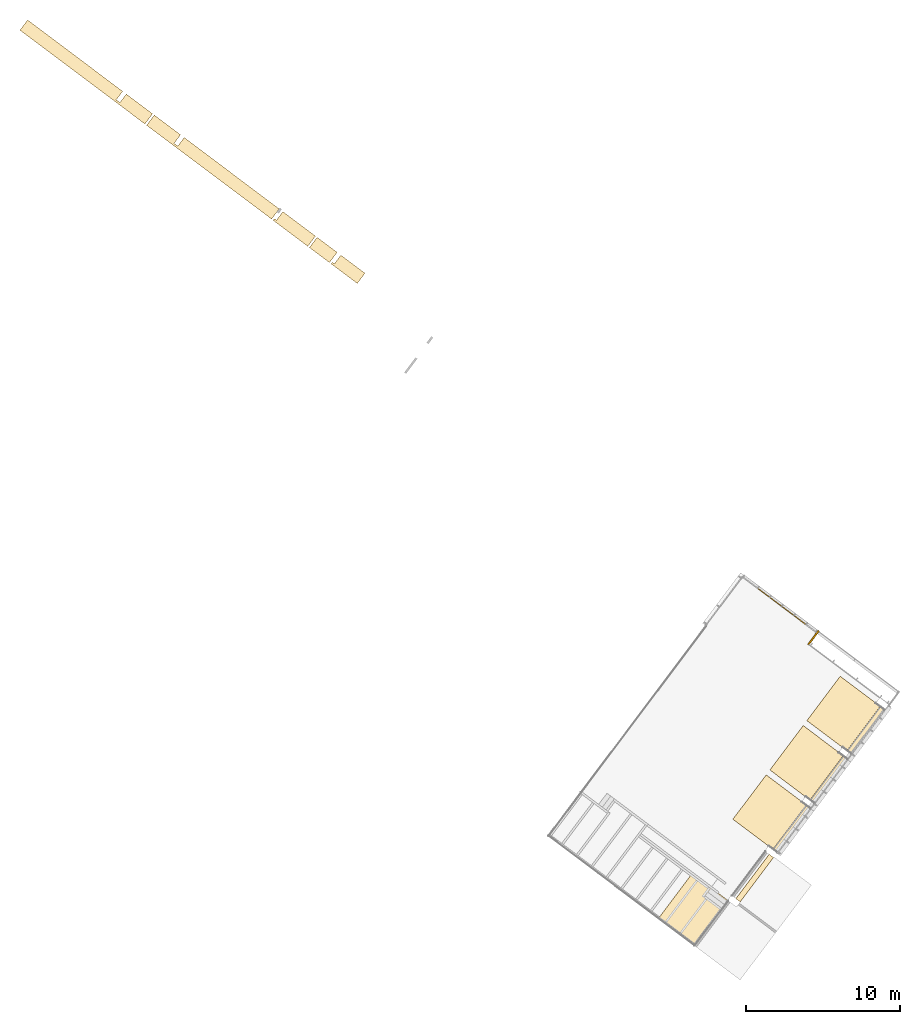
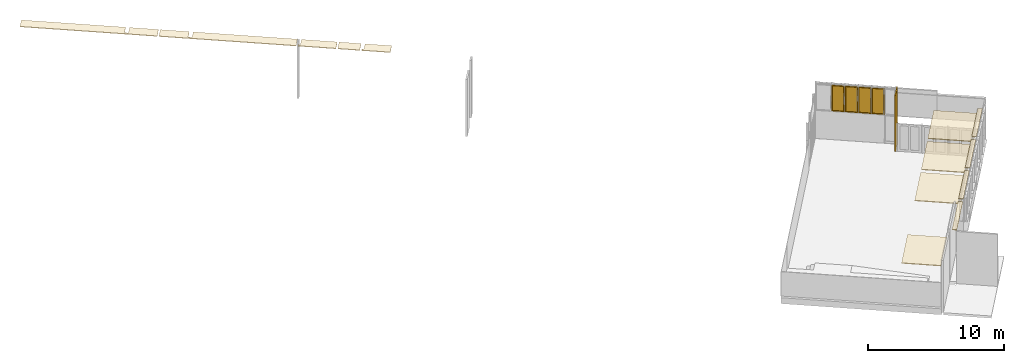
# One storey, part 10 of 15: 13 coverings, 4 windows, 1 door, 1 element without a shape of its own.
"""IFC2X3 building model written with IfcOpenShell, lengths in metres."""

from ifc_helpers import new_model, entity, si_unit, converted_unit, derived_unit, direction, frame, frame_2d, origin, origin_2d_with_axis, place, context, subcontext, project, spatial, polyline, rectangle, outline, extrude, faceted_brep, source, transform, mapped, material, material_list, layer, layer_set, layer_usage, type_object, type_shapes, element, aggregate, save


model = new_model("IFC2X3")

# Units and contexts
model_context = context("Model", 3, precision=1e-05, world=origin(), true_north=direction((6.123031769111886e-17, 1.0)))
body_context = subcontext(model_context, "Body", "Model", "MODEL_VIEW")
ifc_project = project(units=[si_unit("LENGTHUNIT", "METRE"), si_unit("AREAUNIT", "SQUARE_METRE"), si_unit("VOLUMEUNIT", "CUBIC_METRE"), converted_unit("PLANEANGLEUNIT", "DEGREE", entity("IfcRatioMeasure", 0.017453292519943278), si_unit("PLANEANGLEUNIT", "RADIAN"), dimensions=[0, 0, 0, 0, 0, 0, 0]), si_unit("MASSUNIT", "GRAM", prefix="KILO"), derived_unit("MASSDENSITYUNIT", [(si_unit("MASSUNIT", "GRAM", prefix="KILO"), 1), (si_unit("LENGTHUNIT", "METRE"), -3)]), derived_unit("IONCONCENTRATIONUNIT", [(si_unit("MASSUNIT", "GRAM", prefix="KILO"), 1), (si_unit("LENGTHUNIT", "METRE"), -3)]), derived_unit("MOMENTOFINERTIAUNIT", [(si_unit("LENGTHUNIT", "METRE"), 4)]), si_unit("TIMEUNIT", "SECOND"), si_unit("FREQUENCYUNIT", "HERTZ"), si_unit("THERMODYNAMICTEMPERATUREUNIT", "DEGREE_CELSIUS"), derived_unit("THERMALTRANSMITTANCEUNIT", [(si_unit("MASSUNIT", "GRAM", prefix="KILO"), 1), (si_unit("THERMODYNAMICTEMPERATUREUNIT", "KELVIN"), -1), (si_unit("TIMEUNIT", "SECOND"), -3)]), derived_unit("THERMALCONDUCTANCEUNIT", [(si_unit("MASSUNIT", "GRAM", prefix="KILO"), 1), (si_unit("THERMODYNAMICTEMPERATUREUNIT", "KELVIN"), -1), (si_unit("TIMEUNIT", "SECOND"), -3), (si_unit("LENGTHUNIT", "METRE"), 1)]), derived_unit("VOLUMETRICFLOWRATEUNIT", [(si_unit("LENGTHUNIT", "METRE"), 3), (si_unit("TIMEUNIT", "SECOND"), -1)]), derived_unit("MASSFLOWRATEUNIT", [(si_unit("MASSUNIT", "GRAM", prefix="KILO"), 1), (si_unit("TIMEUNIT", "SECOND"), -1)]), derived_unit("ROTATIONALFREQUENCYUNIT", [(si_unit("TIMEUNIT", "SECOND"), -1)]), si_unit("ELECTRICCURRENTUNIT", "AMPERE"), si_unit("ELECTRICVOLTAGEUNIT", "VOLT"), si_unit("POWERUNIT", "WATT"), si_unit("FORCEUNIT", "NEWTON", prefix="KILO"), si_unit("ILLUMINANCEUNIT", "LUX"), si_unit("LUMINOUSFLUXUNIT", "LUMEN"), si_unit("LUMINOUSINTENSITYUNIT", "CANDELA"), derived_unit("USERDEFINED", [(si_unit("MASSUNIT", "GRAM", prefix="KILO"), -1), (si_unit("LENGTHUNIT", "METRE"), -2), (si_unit("TIMEUNIT", "SECOND"), 3), (si_unit("LUMINOUSFLUXUNIT", "LUMEN"), 1)]), derived_unit("USERDEFINED", [(si_unit("MASSUNIT", "GRAM", prefix="KILO"), 1), (si_unit("TIMEUNIT", "SECOND"), -3), (si_unit("LENGTHUNIT", "METRE"), 3), (si_unit("ELECTRICCURRENTUNIT", "AMPERE"), -2)]), derived_unit("SOUNDPOWERUNIT", [(si_unit("MASSUNIT", "GRAM", prefix="KILO"), 1), (si_unit("TIMEUNIT", "SECOND"), -3), (si_unit("LENGTHUNIT", "METRE"), 2)]), derived_unit("SOUNDPRESSUREUNIT", [(si_unit("MASSUNIT", "GRAM", prefix="KILO"), 1), (si_unit("LENGTHUNIT", "METRE"), -1), (si_unit("TIMEUNIT", "SECOND"), -2)]), derived_unit("LINEARVELOCITYUNIT", [(si_unit("LENGTHUNIT", "METRE"), 1), (si_unit("TIMEUNIT", "SECOND"), -1)]), si_unit("PRESSUREUNIT", "PASCAL"), derived_unit("USERDEFINED", [(si_unit("MASSUNIT", "GRAM", prefix="KILO"), 1), (si_unit("LENGTHUNIT", "METRE"), -2), (si_unit("TIMEUNIT", "SECOND"), -2)]), derived_unit("LINEARFORCEUNIT", [(si_unit("MASSUNIT", "GRAM", prefix="KILO"), 1), (si_unit("TIMEUNIT", "SECOND"), -2)]), derived_unit("PLANARFORCEUNIT", [(si_unit("MASSUNIT", "GRAM", prefix="KILO"), 1), (si_unit("LENGTHUNIT", "METRE"), -1), (si_unit("TIMEUNIT", "SECOND"), -2)]), derived_unit("SPECIFICHEATCAPACITYUNIT", [(si_unit("THERMODYNAMICTEMPERATUREUNIT", "KELVIN"), -1), (si_unit("LENGTHUNIT", "METRE"), 2), (si_unit("TIMEUNIT", "SECOND"), -2)]), derived_unit("HEATINGVALUEUNIT", [(si_unit("LENGTHUNIT", "METRE"), 2), (si_unit("TIMEUNIT", "SECOND"), -2)]), derived_unit("VAPORPERMEABILITYUNIT", [(si_unit("LENGTHUNIT", "METRE"), -1), (si_unit("TIMEUNIT", "SECOND"), 1)]), derived_unit("DYNAMICVISCOSITYUNIT", [(si_unit("MASSUNIT", "GRAM", prefix="KILO"), 1), (si_unit("TIMEUNIT", "SECOND"), -1), (si_unit("LENGTHUNIT", "METRE"), -1)]), derived_unit("THERMALEXPANSIONCOEFFICIENTUNIT", [(si_unit("THERMODYNAMICTEMPERATUREUNIT", "KELVIN"), -1)]), derived_unit("MODULUSOFELASTICITYUNIT", [(si_unit("MASSUNIT", "GRAM", prefix="KILO"), 1), (si_unit("LENGTHUNIT", "METRE"), -1), (si_unit("TIMEUNIT", "SECOND"), -2)]), derived_unit("ISOTHERMALMOISTURECAPACITYUNIT", [(si_unit("LENGTHUNIT", "METRE"), 3), (si_unit("MASSUNIT", "GRAM", prefix="KILO"), -1)]), derived_unit("MOISTUREDIFFUSIVITYUNIT", [(si_unit("TIMEUNIT", "SECOND"), -1), (si_unit("LENGTHUNIT", "METRE"), 2)])], contexts=[model_context])

# Site, building, storey
site_placement = place(None, frame((0.0, 0.0, 235.0), z_axis=(0.0, 0.0, 1.0), x_axis=(-0.7996477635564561, 0.6004693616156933, 0.0)))
site = spatial("IfcSite", under=ifc_project, at=site_placement, Name="Default", CompositionType="ELEMENT")
building_placement = place(site_placement, origin())
building = spatial("IfcBuilding", under=site, at=building_placement, CompositionType="ELEMENT")
storey_placement = place(building_placement, frame((0.0, 0.0, -5.4499999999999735)))
storey = spatial("IfcBuildingStorey", under=building, at=storey_placement, Name="PS1- Gimnàs", CompositionType="ELEMENT", Elevation=-5.4499999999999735)

# Curtain wall, windows
curtain_wall_type = type_object("IfcCurtainWallType", Name="Muro cortina:MC- EXT- MCv1- frontal", PredefinedType="NOTDEFINED")
curtain_wall_placement = place(storey_placement, frame((0.0, 0.0, 5.4499999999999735)))
curtain_wall = element("IfcCurtainWall", 1, at=curtain_wall_placement, inside=storey, type_object=curtain_wall_type, Name="Muro cortina:MC- EXT- MCv1- frontal", ObjectType="Muro cortina:MC- EXT- MCv1- frontal")
ifc_material_1 = material(Name="_Alumini- T1- Perfil")
ifc_material_2 = material(Name="_Vidre")
ifc_material_list_1 = material_list([ifc_material_1, ifc_material_2])
window_style = type_object("IfcWindowStyle", Name="MC- Alu- Conjunt vidre fix- 62x60 cm:MC- Alu- Conjunt vidre fix- 62x60 cm", ConstructionType="NOTDEFINED", OperationType="NOTDEFINED", ParameterTakesPrecedence=False, Sizeable=False, material=ifc_material_list_1)
shared_shape_1 = source(origin(), body_context, "Body", "Brep", [
    faceted_brep([(-0.4749999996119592, -0.05999999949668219, 2.342499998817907), (-0.4749999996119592, 0.0, 2.342499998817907), (-0.4749999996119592, 0.0, 0.0), (-0.47499999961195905, -0.05999999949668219, 0.0), (-0.412193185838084, 0.0, 2.279693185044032), (-0.412193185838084, 0.0, 0.06280681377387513), (0.41219318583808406, 0.0, 0.06280681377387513), (0.4121931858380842, 0.0, 2.279693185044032), (0.4749999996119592, 0.0, 2.342499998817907), (0.4749999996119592, 0.0, 0.0), (0.47499999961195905, -0.05999999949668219, 0.0), (0.4749999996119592, -0.05999999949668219, 2.342499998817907), (0.41219603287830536, -0.05999999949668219, 2.2796960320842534), (0.41219603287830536, -0.05999999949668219, 0.06280396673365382), (-0.41219603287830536, -0.05999999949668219, 0.06280396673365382), (-0.41219603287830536, -0.05999999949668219, 2.2796960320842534), (-0.41219603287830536, -0.03160022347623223, 2.2796960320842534), (-0.4121960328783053, -0.03160022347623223, 0.06280396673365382), (0.4121960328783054, -0.03160022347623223, 0.06280396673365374), (0.41219603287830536, -0.03160022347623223, 2.2796960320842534), (0.42619328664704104, -0.03160022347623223, 2.293693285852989), (0.42619328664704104, -0.03160022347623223, 0.048806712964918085), (-0.4261932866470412, -0.03160022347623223, 0.04880671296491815), (-0.42619328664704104, -0.03160022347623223, 2.293693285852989), (-0.42619328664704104, -0.007600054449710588, 2.293693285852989), (-0.4261932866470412, -0.007600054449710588, 0.04880671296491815), (0.42619328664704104, -0.007600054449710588, 0.048806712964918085), (0.42619328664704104, -0.007600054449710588, 2.293693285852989), (0.41219318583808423, -0.007600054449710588, 2.279693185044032), (0.41219318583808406, -0.007600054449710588, 0.06280681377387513), (-0.41219318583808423, -0.007600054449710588, 0.06280681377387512), (-0.412193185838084, -0.007600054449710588, 2.279693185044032)], [[[0, 1, 2, 3]], [[4, 5, 6, 7], [8, 9, 2, 1]], [[3, 2, 9, 10]], [[0, 3, 10, 11], [12, 13, 14, 15]], [[16, 15, 14, 17]], [[17, 14, 13, 18]], [[16, 17, 18, 19], [20, 21, 22, 23]], [[24, 23, 22, 25]], [[25, 22, 21, 26]], [[24, 25, 26, 27], [28, 29, 30, 31]], [[4, 31, 30, 5]], [[5, 30, 29, 6]], [[10, 9, 8, 11]], [[18, 13, 12, 19]], [[26, 21, 20, 27]], [[6, 29, 28, 7]], [[11, 8, 1, 0]], [[19, 12, 15, 16]], [[27, 20, 23, 24]], [[7, 28, 31, 4]]], outer=[[True], [False, True], [True], [True, False], [True], [True], [False, True], [True], [True], [True, False], [True], [True], [True], [True], [True], [True], [True], [True], [True], [True]]),
    faceted_brep([(-0.42619328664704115, -0.007600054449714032, 0.048806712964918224), (0.42619328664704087, -0.007600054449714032, 0.048806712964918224), (0.42619328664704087, -0.03160022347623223, 0.048806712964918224), (-0.42619328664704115, -0.03160022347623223, 0.048806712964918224), (-0.42619328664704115, -0.007600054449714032, 2.2934999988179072), (0.42619328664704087, -0.007600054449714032, 2.2934999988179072), (0.42619328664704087, -0.03160022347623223, 2.2934999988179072), (-0.42619328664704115, -0.03160022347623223, 2.2934999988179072)], [[[0, 1, 2, 3]], [[4, 5, 1, 0]], [[5, 6, 2, 1]], [[6, 7, 3, 2]], [[7, 4, 0, 3]], [[4, 7, 6, 5]]]),
])
type_shapes(window_style, [shared_shape_1])
window_1_placement = place(curtain_wall_placement, frame((13.965147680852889, -39.3651917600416, -2.8849999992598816), z_axis=(0.0, 0.0, 1.0), x_axis=(-1.0, 0.0, 0.0)))
window_1 = element("IfcWindow", 2, at=window_1_placement, type_object=window_style, material=ifc_material_list_1, Name="MC- Alu- Conjunt vidre fix- 62x60 cm:MC- Alu- Conjunt vidre fix- 62x60 cm", ObjectType="MC- Alu- Conjunt vidre fix- 62x60 cm:MC- Alu- Conjunt vidre fix- 62x60 cm", OverallHeight=2.342499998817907, OverallWidth=0.9499999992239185, context=body_context, shape_type="MappedRepresentation", body=[
    mapped(shared_shape_1, transform((0.0, 0.0, 0.0), scale=1.0)),
])
window_2_placement = place(curtain_wall_placement, frame((12.985147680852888, -39.3651917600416, -2.8849999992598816), z_axis=(0.0, 0.0, 1.0), x_axis=(-1.0, 0.0, 0.0)))
window_2 = element("IfcWindow", 3, at=window_2_placement, type_object=window_style, material=ifc_material_list_1, Name="MC- Alu- Conjunt vidre fix- 62x60 cm:MC- Alu- Conjunt vidre fix- 62x60 cm", ObjectType="MC- Alu- Conjunt vidre fix- 62x60 cm:MC- Alu- Conjunt vidre fix- 62x60 cm", OverallHeight=2.342499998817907, OverallWidth=0.9499999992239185, context=body_context, shape_type="MappedRepresentation", body=[
    mapped(shared_shape_1, transform((0.0, 0.0, 0.0), scale=1.0)),
])
window_3_placement = place(curtain_wall_placement, frame((12.005147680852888, -39.3651917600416, -2.8849999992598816), z_axis=(0.0, 0.0, 1.0), x_axis=(-1.0, 0.0, 0.0)))
window_3 = element("IfcWindow", 4, at=window_3_placement, type_object=window_style, material=ifc_material_list_1, Name="MC- Alu- Conjunt vidre fix- 62x60 cm:MC- Alu- Conjunt vidre fix- 62x60 cm", ObjectType="MC- Alu- Conjunt vidre fix- 62x60 cm:MC- Alu- Conjunt vidre fix- 62x60 cm", OverallHeight=2.342499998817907, OverallWidth=0.9499999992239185, context=body_context, shape_type="MappedRepresentation", body=[
    mapped(shared_shape_1, transform((0.0, 0.0, 0.0), scale=1.0)),
])
window_4_placement = place(curtain_wall_placement, frame((11.025147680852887, -39.3651917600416, -2.8849999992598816), z_axis=(0.0, 0.0, 1.0), x_axis=(-1.0, 0.0, 0.0)))
window_4 = element("IfcWindow", 5, at=window_4_placement, type_object=window_style, material=ifc_material_list_1, Name="MC- Alu- Conjunt vidre fix- 62x60 cm:MC- Alu- Conjunt vidre fix- 62x60 cm", ObjectType="MC- Alu- Conjunt vidre fix- 62x60 cm:MC- Alu- Conjunt vidre fix- 62x60 cm", OverallHeight=2.342499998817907, OverallWidth=0.9499999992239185, context=body_context, shape_type="MappedRepresentation", body=[
    mapped(shared_shape_1, transform((0.0, 0.0, 0.0), scale=1.0)),
])
aggregate(curtain_wall, [window_1, window_2, window_3, window_4])

# Door
ifc_material_3 = material(Name="_Aillament")
ifc_material_list_2 = material_list([ifc_material_3, ifc_material_1])
door_style = type_object("IfcDoorStyle", Name="MC- Alu- Remats panell opac:MC- Alu- Remats panell opac", ConstructionType="NOTDEFINED", OperationType="NOTDEFINED", ParameterTakesPrecedence=False, Sizeable=False, material=ifc_material_list_2)
shared_shape_2 = source(origin(), body_context, "Body", "SweptSolid", [
    extrude(rectangle(XDim=1.096443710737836, YDim=0.06999999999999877, at=frame_2d((0.0, -5.412337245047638e-16), x_axis=(1.0, 0.0))), frame((0.04499999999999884, 0.5582218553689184, 0.0), z_axis=(0.0, 0.0, 1.0), x_axis=(0.0, -1.0, 0.0)), (0.0, 0.0, 1.0), 5.029999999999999),
    extrude(outline(polyline([(-0.5582218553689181, -0.0449999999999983), (0.5582218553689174, -0.0449999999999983), (0.5582218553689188, 0.0449999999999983), (-0.5582218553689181, 0.0449999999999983), (-0.5582218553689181, -0.0449999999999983)]), holes=[polyline([(-0.5482218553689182, 0.0349999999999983), (0.5482218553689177, 0.0349999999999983), (0.5482218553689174, -0.0349999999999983), (-0.5482218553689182, -0.034999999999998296), (-0.5482218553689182, 0.0349999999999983)])]), frame((0.0449999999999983, 0.5582218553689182, 0.0), z_axis=(0.0, 0.0, 1.0), x_axis=(0.0, -1.0, 0.0)), (0.0, 0.0, 1.0), 5.029999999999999),
])
type_shapes(door_style, [shared_shape_2])
door_placement = place(storey_placement, frame((9.59114768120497, -39.5051917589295, 0.0)))
element("IfcDoor", 6, at=door_placement, inside=storey, type_object=door_style, material=ifc_material_list_2, Name="MC- Alu- Remats panell opac:MC- Alu- Remats panell opac", ObjectType="MC- Alu- Remats panell opac:MC- Alu- Remats panell opac", OverallHeight=5.030000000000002, OverallWidth=0.0899999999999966, context=body_context, shape_type="MappedRepresentation", body=[
    mapped(shared_shape_2, transform((0.0, 0.0, 0.0), scale=1.0)),
])

# Coverings
ifc_layer_1 = layer(ifc_material_3, 0.05)
ifc_material_4 = material(Name="_PYL- SOS")
ifc_layer_2 = layer(ifc_material_4, 0.015)
ifc_layer_set_1 = layer_set([ifc_layer_1, ifc_layer_2], Name="Techo compuesto:SOS- Guix Laminat- Aillament- 6,5 cm")
ifc_layer_usage_1 = layer_usage(ifc_layer_set_1, "AXIS3", "POSITIVE", 0.0)
covering_type_1 = type_object("IfcCoveringType", Name="Techo compuesto:SOS- Guix Laminat- Aillament- 6,5 cm", PredefinedType="CEILING")
covering_1_placement = place(storey_placement, frame((3.1451476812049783, -29.99019175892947, 4.594999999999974)))
element("IfcCovering", 7, at=covering_1_placement, inside=storey, type_object=covering_type_1, material=ifc_layer_usage_1, Name="Techo compuesto:SOS- Guix Laminat- Aillament- 6,5 cm", ObjectType="Techo compuesto:SOS- Guix Laminat- Aillament- 6,5 cm", PredefinedType="CEILING", context=body_context, shape_type="SweptSolid", body=[
    extrude(rectangle(XDim=0.3520000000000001, YDim=3.6000000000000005, at=frame_2d((2.7755575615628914e-16, 2.1094237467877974e-15), x_axis=(1.0, 0.0))), frame((0.17600000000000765, 1.799999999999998, 0.0)), (0.0, 0.0, 1.0), 0.06499999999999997),
])
covering_2_placement = place(storey_placement, frame((3.1451476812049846, -25.99019175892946, 4.594999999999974)))
element("IfcCovering", 8, at=covering_2_placement, inside=storey, type_object=covering_type_1, material=ifc_layer_usage_1, Name="Techo compuesto:SOS- Guix Laminat- Aillament- 6,5 cm", ObjectType="Techo compuesto:SOS- Guix Laminat- Aillament- 6,5 cm", PredefinedType="CEILING", context=body_context, shape_type="SweptSolid", body=[
    extrude(rectangle(XDim=0.3520000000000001, YDim=3.6000000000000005, at=frame_2d((-2.7755575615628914e-16, 2.1094237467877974e-15), x_axis=(1.0, 0.0))), frame((0.17600000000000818, 1.799999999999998, 0.0)), (0.0, 0.0, 1.0), 0.06499999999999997),
])
covering_3_placement = place(storey_placement, frame((3.1451476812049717, -33.99019175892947, 4.594999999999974)))
element("IfcCovering", 9, at=covering_3_placement, inside=storey, type_object=covering_type_1, material=ifc_layer_usage_1, Name="Techo compuesto:SOS- Guix Laminat- Aillament- 6,5 cm", ObjectType="Techo compuesto:SOS- Guix Laminat- Aillament- 6,5 cm", PredefinedType="CEILING", context=body_context, shape_type="SweptSolid", body=[
    extrude(rectangle(XDim=0.3520000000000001, YDim=3.6000000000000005, at=frame_2d((-2.7755575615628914e-16, -2.1094237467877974e-15), x_axis=(1.0, 0.0))), frame((0.17600000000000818, 1.799999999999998, 0.0)), (0.0, 0.0, 1.0), 0.06499999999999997),
])
covering_4_placement = place(storey_placement, frame((3.145147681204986, -37.99019175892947, 4.594999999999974)))
element("IfcCovering", 10, at=covering_4_placement, inside=storey, type_object=covering_type_1, material=ifc_layer_usage_1, Name="Techo compuesto:SOS- Guix Laminat- Aillament- 6,5 cm", ObjectType="Techo compuesto:SOS- Guix Laminat- Aillament- 6,5 cm", PredefinedType="CEILING", context=body_context, shape_type="SweptSolid", body=[
    extrude(rectangle(XDim=0.3520000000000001, YDim=3.6000000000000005, at=frame_2d((2.7755575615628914e-16, 2.1094237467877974e-15), x_axis=(1.0, 0.0))), frame((0.17600000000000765, 1.7999999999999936, 0.0)), (0.0, 0.0, 1.0), 0.06499999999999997),
])
ifc_layer_3 = layer(ifc_material_3, 0.05)
ifc_layer_4 = layer(ifc_material_4, 0.015)
ifc_layer_set_2 = layer_set([ifc_layer_3, ifc_layer_4], Name="Techo compuesto:SOS- Guix Laminat Acústic- Aillament- 6,5 cm 2")
ifc_layer_usage_2 = layer_usage(ifc_layer_set_2, "AXIS3", "POSITIVE", 0.0)
covering_type_2 = type_object("IfcCoveringType", Name="Techo compuesto:SOS- Guix Laminat Acústic- Aillament- 6,5 cm 2", PredefinedType="CEILING")
covering_5_placement = place(storey_placement, frame((3.345147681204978, -29.990191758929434, 4.139999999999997)))
element("IfcCovering", 11, at=covering_5_placement, inside=storey, type_object=covering_type_2, material=ifc_layer_usage_2, Name="Techo compuesto:SOS- Guix Laminat Acústic- Aillament- 6,5 cm 2", ObjectType="Techo compuesto:SOS- Guix Laminat Acústic- Aillament- 6,5 cm 2", PredefinedType="CEILING", context=body_context, shape_type="SweptSolid", body=[
    extrude(rectangle(XDim=3.599999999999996, YDim=3.4000000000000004, at=frame_2d((0.0, 5.551115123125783e-16), x_axis=(1.0, 0.0))), frame((1.7000000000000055, 1.8000000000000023, 0.0), z_axis=(0.0, 0.0, 1.0), x_axis=(0.0, -1.0, 0.0)), (0.0, 0.0, 1.0), 0.06500000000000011),
])
covering_6_placement = place(storey_placement, frame((3.345147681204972, -33.99019175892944, 4.139999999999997)))
element("IfcCovering", 12, at=covering_6_placement, inside=storey, type_object=covering_type_2, material=ifc_layer_usage_2, Name="Techo compuesto:SOS- Guix Laminat Acústic- Aillament- 6,5 cm 2", ObjectType="Techo compuesto:SOS- Guix Laminat Acústic- Aillament- 6,5 cm 2", PredefinedType="CEILING", context=body_context, shape_type="SweptSolid", body=[
    extrude(rectangle(XDim=3.599999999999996, YDim=3.4000000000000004, at=frame_2d((0.0, -5.551115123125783e-16), x_axis=(1.0, 0.0))), frame((1.7000000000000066, 1.8000000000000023, 0.0), z_axis=(0.0, 0.0, 1.0), x_axis=(0.0, -1.0, 0.0)), (0.0, 0.0, 1.0), 0.06500000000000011),
])
covering_7_placement = place(storey_placement, frame((3.3451476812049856, -37.99019175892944, 4.139999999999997)))
element("IfcCovering", 13, at=covering_7_placement, inside=storey, type_object=covering_type_2, material=ifc_layer_usage_2, Name="Techo compuesto:SOS- Guix Laminat Acústic- Aillament- 6,5 cm 2", ObjectType="Techo compuesto:SOS- Guix Laminat Acústic- Aillament- 6,5 cm 2", PredefinedType="CEILING", context=body_context, shape_type="SweptSolid", body=[
    extrude(rectangle(XDim=3.599999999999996, YDim=3.3999999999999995, at=origin_2d_with_axis()), frame((1.7000000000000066, 1.8000000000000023, 0.0), z_axis=(0.0, 0.0, 1.0), x_axis=(0.0, -1.0, 0.0)), (0.0, 0.0, 1.0), 0.06500000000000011),
])
covering_8_placement = place(storey_placement, frame((3.8301476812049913, -21.990191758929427, 4.139999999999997)))
element("IfcCovering", 14, at=covering_8_placement, inside=storey, type_object=covering_type_2, material=ifc_layer_usage_2, Name="Techo compuesto:SOS- Guix Laminat Acústic- Aillament- 6,5 cm 2", ObjectType="Techo compuesto:SOS- Guix Laminat Acústic- Aillament- 6,5 cm 2", PredefinedType="CEILING", context=body_context, shape_type="SweptSolid", body=[
    extrude(rectangle(XDim=3.650000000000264, YDim=2.9150000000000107, at=frame_2d((-9.992007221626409e-16, -3.774758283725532e-15), x_axis=(1.0, 0.0))), frame((1.4575000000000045, 1.8250000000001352, 0.0), z_axis=(0.0, 0.0, 1.0), x_axis=(0.0, -1.0, 0.0)), (0.0, 0.0, 1.0), 0.06500000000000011),
])
ifc_layer_5 = layer(ifc_material_3, 0.035)
ifc_layer_6 = layer(ifc_material_4, 0.015)
ifc_layer_set_3 = layer_set([ifc_layer_5, ifc_layer_6], Name="Techo compuesto:SOS- Guix Laminat- Aillament- 5 cm")
ifc_layer_usage_3 = layer_usage(ifc_layer_set_3, "AXIS3", "POSITIVE", 0.0)
covering_type_3 = type_object("IfcCoveringType", Name="Techo compuesto:SOS- Guix Laminat- Aillament- 5 cm", PredefinedType="CEILING")
covering_9_placement = place(storey_placement, frame((54.045147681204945, -40.380191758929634, 4.879999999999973)))
element("IfcCovering", 15, at=covering_9_placement, inside=storey, type_object=covering_type_3, material=ifc_layer_usage_3, Name="Techo compuesto:SOS- Guix Laminat- Aillament- 5 cm", ObjectType="Techo compuesto:SOS- Guix Laminat- Aillament- 5 cm", PredefinedType="CEILING", context=body_context, shape_type="SweptSolid", body=[
    extrude(outline(polyline([(-0.37950000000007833, -3.6725000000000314), (0.44850000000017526, -3.6725000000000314), (0.44850000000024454, 6.457499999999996), (-0.379500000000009, 6.457499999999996), (-0.379500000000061, -1.2425000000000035), (0.31049999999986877, -1.2425000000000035), (0.31049999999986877, -1.5425000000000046), (-0.379500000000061, -1.5425000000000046), (-0.37950000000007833, -3.6725000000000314)])), frame((6.457499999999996, 0.37950000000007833, 0.0), z_axis=(0.0, 0.0, 1.0), x_axis=(0.0, 1.0, 0.0)), (0.0, 0.0, 1.0), 0.05),
])
covering_10_placement = place(storey_placement, frame((64.31514768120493, -40.380191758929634, 4.879999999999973)))
element("IfcCovering", 16, at=covering_10_placement, inside=storey, type_object=covering_type_3, material=ifc_layer_usage_3, Name="Techo compuesto:SOS- Guix Laminat- Aillament- 5 cm", ObjectType="Techo compuesto:SOS- Guix Laminat- Aillament- 5 cm", PredefinedType="CEILING", context=body_context, shape_type="SweptSolid", body=[
    extrude(outline(polyline([(-3.672500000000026, -0.3795000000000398), (-1.5424999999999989, -0.3795000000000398), (-1.5424999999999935, 0.31049999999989), (-1.2424999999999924, 0.31049999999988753), (-1.2424999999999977, -0.37950000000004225), (6.457500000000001, -0.3795000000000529), (6.457500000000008, 0.4485000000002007), (-3.672500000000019, 0.4485000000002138), (-3.672500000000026, -0.3795000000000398)])), frame((3.672500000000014, 0.37950000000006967, 0.0)), (0.0, 0.0, 1.0), 0.05),
])
covering_11_placement = place(storey_placement, frame((51.10614768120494, -40.380191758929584, 4.879999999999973)))
element("IfcCovering", 17, at=covering_11_placement, inside=storey, type_object=covering_type_3, material=ifc_layer_usage_3, Name="Techo compuesto:SOS- Guix Laminat- Aillament- 5 cm", ObjectType="Techo compuesto:SOS- Guix Laminat- Aillament- 5 cm", PredefinedType="CEILING", context=body_context, shape_type="SweptSolid", body=[
    extrude(outline(polyline([(-1.8126666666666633, -0.5060000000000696), (0.8263333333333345, -0.5060000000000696), (0.8263333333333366, 0.18399999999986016), (0.986333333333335, 0.18399999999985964), (0.9863333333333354, 0.3220000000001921), (-1.8126666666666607, 0.322000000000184), (-1.8126666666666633, -0.5060000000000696)])), frame((1.8126666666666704, 0.5060000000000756, 0.0)), (0.0, 0.0, 1.0), 0.05),
])
covering_12_placement = place(storey_placement, frame((49.345147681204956, -40.380191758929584, 4.879999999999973)))
element("IfcCovering", 18, at=covering_12_placement, inside=storey, type_object=covering_type_3, material=ifc_layer_usage_3, Name="Techo compuesto:SOS- Guix Laminat- Aillament- 5 cm", ObjectType="Techo compuesto:SOS- Guix Laminat- Aillament- 5 cm", PredefinedType="CEILING", context=body_context, shape_type="SweptSolid", body=[
    extrude(rectangle(XDim=0.8280000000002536, YDim=1.6209999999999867, at=frame_2d((0.0, 4.3298697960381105e-15), x_axis=(1.0, 0.0))), frame((0.8104999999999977, 0.41400000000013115, 0.0), z_axis=(0.0, 0.0, 1.0), x_axis=(0.0, 1.0, 0.0)), (0.0, 0.0, 1.0), 0.05),
])
covering_13_placement = place(storey_placement, frame((47.09014768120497, -40.380191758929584, 4.879999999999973)))
element("IfcCovering", 19, at=covering_13_placement, inside=storey, type_object=covering_type_3, material=ifc_layer_usage_3, Name="Techo compuesto:SOS- Guix Laminat- Aillament- 5 cm", ObjectType="Techo compuesto:SOS- Guix Laminat- Aillament- 5 cm", PredefinedType="CEILING", context=body_context, shape_type="SweptSolid", body=[
    extrude(outline(polyline([(-1.356666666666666, -0.5060000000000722), (0.5983333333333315, -0.5060000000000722), (0.5983333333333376, 0.1839999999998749), (0.7583333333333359, 0.18399999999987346), (0.7583333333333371, 0.32200000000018), (-1.3566666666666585, 0.3220000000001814), (-1.356666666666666, -0.5060000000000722)])), frame((1.3566666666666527, 0.5060000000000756, 0.0)), (0.0, 0.0, 1.0), 0.05),
])

save(model, "model.ifc")
